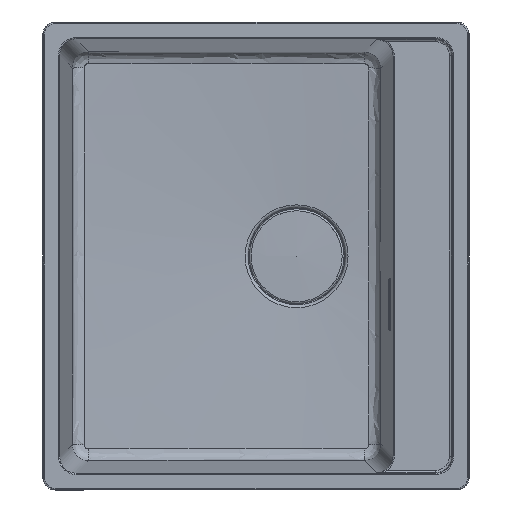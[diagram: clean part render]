
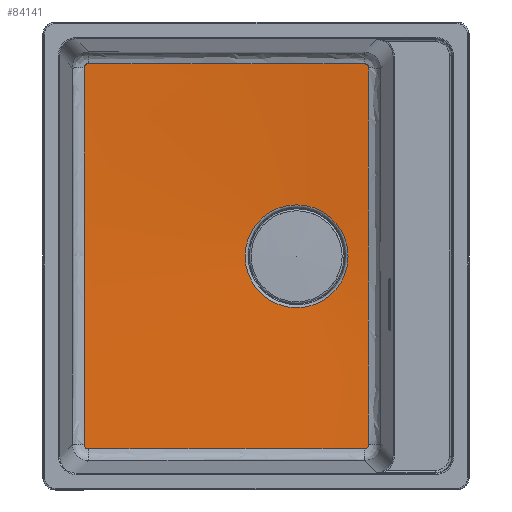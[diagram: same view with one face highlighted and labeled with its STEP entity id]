
A CAD part, top view. The second image highlights one B-rep face of the part: STEP entity #84141.
In plain terms, the highlighted conical face has half-angle 87 degrees and reference radius 431.05 mm.
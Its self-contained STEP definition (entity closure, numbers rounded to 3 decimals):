
#238=CONICAL_SURFACE('',#89723,431.05,1.518);
#2324=B_SPLINE_CURVE_WITH_KNOTS('',3,(#120368,#120369,#120370,#120371,#120372,
#120373,#120374,#120375),.UNSPECIFIED.,.F.,.F.,(4,1,1,1,1,4),(-0.784,
-0.56,-0.336,-0.224,-0.112,
0.),.UNSPECIFIED.);
#2325=B_SPLINE_CURVE_WITH_KNOTS('',3,(#120421,#120422,#120423,#120424,#120425,
#120426,#120427),.UNSPECIFIED.,.F.,.F.,(4,1,1,1,4),(0.,4.711,
11.778,14.133,32.978),.UNSPECIFIED.);
#2326=B_SPLINE_CURVE_WITH_KNOTS('',3,(#120472,#120473,#120474,#120475,#120476,
#120477,#120478),.UNSPECIFIED.,.F.,.F.,(4,1,1,1,4),(-0.784,
-0.56,-0.336,-0.224,0.),
 .UNSPECIFIED.);
#2327=B_SPLINE_CURVE_WITH_KNOTS('',3,(#120548,#120549,#120550,#120551,#120552,
#120553,#120554,#120555),.UNSPECIFIED.,.F.,.F.,(4,1,1,1,1,4),(0.,6.422,
12.845,19.267,22.478,22.478),
 .UNSPECIFIED.);
#2328=B_SPLINE_CURVE_WITH_KNOTS('',3,(#120556,#120557,#120558,#120559,#120560,
#120561,#120562),.UNSPECIFIED.,.F.,.F.,(4,1,1,1,4),(22.478,25.689,
32.112,38.534,44.956),.UNSPECIFIED.);
#2329=B_SPLINE_CURVE_WITH_KNOTS('',3,(#120607,#120608,#120609,#120610,#120611,
#120612,#120613),.UNSPECIFIED.,.F.,.F.,(4,1,1,1,4),(-0.784,
-0.56,-0.336,-0.112,0.),
 .UNSPECIFIED.);
#2331=B_SPLINE_CURVE_WITH_KNOTS('',3,(#120665,#120666,#120667,#120668,#120669,
#120670,#120671),.UNSPECIFIED.,.F.,.F.,(4,1,1,1,4),(0.,14.133,
16.489,23.555,32.978),.UNSPECIFIED.);
#2332=B_SPLINE_CURVE_WITH_KNOTS('',3,(#120722,#120723,#120724,#120725,#120726,
#120727,#120728,#120729),.UNSPECIFIED.,.F.,.F.,(4,1,1,1,1,4),(-0.784,
-0.672,-0.56,-0.448,-0.224,
0.),.UNSPECIFIED.);
#2333=B_SPLINE_CURVE_WITH_KNOTS('',3,(#120772,#120773,#120774,#120775,#120776,
#120777,#120778),.UNSPECIFIED.,.F.,.F.,(4,1,1,1,4),(0.,
19.296,25.728,32.16,45.024),
 .UNSPECIFIED.);
#8037=FACE_OUTER_BOUND('',#12952,.T.);
#12952=EDGE_LOOP('',(#58238,#58239,#58240,#58241,#58242,#58243,#58244,#58245,
#58246,#58247,#58248,#58249,#58250));
#18136=LINE('',#120784,#25767);
#25767=VECTOR('',#96851,431.05);
#33397=CIRCLE('',#89724,61.592);
#33398=CIRCLE('',#89725,61.592);
#36022=VERTEX_POINT('',#120365);
#36023=VERTEX_POINT('',#120367);
#36024=VERTEX_POINT('',#120419);
#36025=VERTEX_POINT('',#120470);
#36026=VERTEX_POINT('',#120545);
#36027=VERTEX_POINT('',#120547);
#36028=VERTEX_POINT('',#120605);
#36029=VERTEX_POINT('',#120663);
#36030=VERTEX_POINT('',#120720);
#36031=VERTEX_POINT('',#120780);
#36032=VERTEX_POINT('',#120781);
#44661=EDGE_CURVE('',#36022,#36023,#2324,.T.);
#44664=EDGE_CURVE('',#36024,#36022,#2325,.T.);
#44666=EDGE_CURVE('',#36025,#36024,#2326,.T.);
#44668=EDGE_CURVE('',#36026,#36027,#2327,.T.);
#44669=EDGE_CURVE('',#36027,#36025,#2328,.T.);
#44671=EDGE_CURVE('',#36028,#36026,#2329,.T.);
#44674=EDGE_CURVE('',#36029,#36028,#2331,.T.);
#44676=EDGE_CURVE('',#36030,#36029,#2332,.T.);
#44677=EDGE_CURVE('',#36023,#36030,#2333,.T.);
#44678=EDGE_CURVE('',#36031,#36032,#33397,.T.);
#44679=EDGE_CURVE('',#36032,#36031,#33398,.T.);
#44680=EDGE_CURVE('',#36032,#36027,#18136,.T.);
#58238=ORIENTED_EDGE('',*,*,#44678,.F.);
#58239=ORIENTED_EDGE('',*,*,#44679,.F.);
#58240=ORIENTED_EDGE('',*,*,#44680,.T.);
#58241=ORIENTED_EDGE('',*,*,#44668,.F.);
#58242=ORIENTED_EDGE('',*,*,#44671,.F.);
#58243=ORIENTED_EDGE('',*,*,#44674,.F.);
#58244=ORIENTED_EDGE('',*,*,#44676,.F.);
#58245=ORIENTED_EDGE('',*,*,#44677,.F.);
#58246=ORIENTED_EDGE('',*,*,#44661,.F.);
#58247=ORIENTED_EDGE('',*,*,#44664,.F.);
#58248=ORIENTED_EDGE('',*,*,#44666,.F.);
#58249=ORIENTED_EDGE('',*,*,#44669,.F.);
#58250=ORIENTED_EDGE('',*,*,#44680,.F.);
#84141=ADVANCED_FACE('',(#8037),#238,.F.);
#89723=AXIS2_PLACEMENT_3D('',#120779,#96845,#96846);
#89724=AXIS2_PLACEMENT_3D('',#120782,#96847,#96848);
#89725=AXIS2_PLACEMENT_3D('',#120783,#96849,#96850);
#96845=DIRECTION('center_axis',(0.,0.,1.));
#96846=DIRECTION('ref_axis',(-1.,0.,0.));
#96847=DIRECTION('center_axis',(0.,0.,1.));
#96848=DIRECTION('ref_axis',(1.,0.,0.));
#96849=DIRECTION('center_axis',(0.,0.,1.));
#96850=DIRECTION('ref_axis',(1.,0.,0.));
#96851=DIRECTION('',(0.999,0.,0.052));
#120365=CARTESIAN_POINT('',(-200.639,-230.577,-185.271));
#120367=CARTESIAN_POINT('',(-205.633,-225.586,-185.253));
#120368=CARTESIAN_POINT('Ctrl Pts',(-200.639,-230.577,
-185.271));
#120369=CARTESIAN_POINT('Ctrl Pts',(-201.386,-230.579,
-185.243));
#120370=CARTESIAN_POINT('Ctrl Pts',(-202.882,-230.245,
-185.197));
#120371=CARTESIAN_POINT('Ctrl Pts',(-204.384,-229.051,
-185.181));
#120372=CARTESIAN_POINT('Ctrl Pts',(-205.182,-227.773,
-185.194));
#120373=CARTESIAN_POINT('Ctrl Pts',(-205.552,-226.707,
-185.217));
#120374=CARTESIAN_POINT('Ctrl Pts',(-205.634,-225.959,
-185.24));
#120375=CARTESIAN_POINT('Ctrl Pts',(-205.633,-225.586,-185.253));
#120419=CARTESIAN_POINT('',(129.888,-230.348,-190.264));
#120421=CARTESIAN_POINT('Ctrl Pts',(129.888,-230.348,
-190.264));
#120422=CARTESIAN_POINT('Ctrl Pts',(114.141,-230.339,
-190.539));
#120423=CARTESIAN_POINT('Ctrl Pts',(74.76,-230.326,
-191.049));
#120424=CARTESIAN_POINT('Ctrl Pts',(27.484,-230.328,-191.037));
#120425=CARTESIAN_POINT('Ctrl Pts',(-67.043,-230.349,
-189.994));
#120426=CARTESIAN_POINT('Ctrl Pts',(-137.805,-230.438,
-187.694));
#120427=CARTESIAN_POINT('Ctrl Pts',(-200.639,-230.577,
-185.271));
#120470=CARTESIAN_POINT('',(134.874,-225.346,-190.42));
#120472=CARTESIAN_POINT('Ctrl Pts',(134.874,-225.346,
-190.42));
#120473=CARTESIAN_POINT('Ctrl Pts',(134.877,-226.092,
-190.383));
#120474=CARTESIAN_POINT('Ctrl Pts',(134.545,-227.586,-190.317));
#120475=CARTESIAN_POINT('Ctrl Pts',(133.354,-229.09,
-190.265));
#120476=CARTESIAN_POINT('Ctrl Pts',(131.759,-230.093,
-190.244));
#120477=CARTESIAN_POINT('Ctrl Pts',(130.636,-230.348,-190.251));
#120478=CARTESIAN_POINT('Ctrl Pts',(129.888,-230.348,
-190.264));
#120545=CARTESIAN_POINT('',(134.874,225.346,-190.42));
#120547=CARTESIAN_POINT('',(134.668,0.,-198.557));
#120548=CARTESIAN_POINT('Ctrl Pts',(134.874,225.346,-190.42));
#120549=CARTESIAN_POINT('Ctrl Pts',(134.806,203.955,-191.468));
#120550=CARTESIAN_POINT('Ctrl Pts',(134.684,161.164,-193.53));
#120551=CARTESIAN_POINT('Ctrl Pts',(134.572,96.925,-196.383));
#120552=CARTESIAN_POINT('Ctrl Pts',(134.628,43.21,-198.217));
#120553=CARTESIAN_POINT('Ctrl Pts',(134.668,10.802,-198.556));
#120554=CARTESIAN_POINT('Ctrl Pts',(134.668,0.,
-198.557));
#120555=CARTESIAN_POINT('Ctrl Pts',(134.668,0.,
-198.557));
#120556=CARTESIAN_POINT('Ctrl Pts',(134.668,0.,
-198.557));
#120557=CARTESIAN_POINT('Ctrl Pts',(134.668,-10.802,
-198.557));
#120558=CARTESIAN_POINT('Ctrl Pts',(134.629,-43.209,
-198.219));
#120559=CARTESIAN_POINT('Ctrl Pts',(134.572,-96.925,-196.382));
#120560=CARTESIAN_POINT('Ctrl Pts',(134.684,-161.164,
-193.531));
#120561=CARTESIAN_POINT('Ctrl Pts',(134.806,-203.955,
-191.468));
#120562=CARTESIAN_POINT('Ctrl Pts',(134.874,-225.346,
-190.42));
#120605=CARTESIAN_POINT('',(129.888,230.348,-190.264));
#120607=CARTESIAN_POINT('Ctrl Pts',(129.888,230.348,-190.264));
#120608=CARTESIAN_POINT('Ctrl Pts',(130.636,230.348,-190.251));
#120609=CARTESIAN_POINT('Ctrl Pts',(132.134,230.009,-190.241));
#120610=CARTESIAN_POINT('Ctrl Pts',(133.935,228.57,-190.28));
#120611=CARTESIAN_POINT('Ctrl Pts',(134.756,226.839,-190.349));
#120612=CARTESIAN_POINT('Ctrl Pts',(134.876,225.719,-190.402));
#120613=CARTESIAN_POINT('Ctrl Pts',(134.874,225.346,-190.42));
#120663=CARTESIAN_POINT('',(-200.639,230.577,-185.271));
#120665=CARTESIAN_POINT('Ctrl Pts',(-200.639,230.577,
-185.271));
#120666=CARTESIAN_POINT('Ctrl Pts',(-153.514,230.472,
-187.088));
#120667=CARTESIAN_POINT('Ctrl Pts',(-98.494,230.388,-188.953));
#120668=CARTESIAN_POINT('Ctrl Pts',(-19.781,230.338,
-190.551));
#120669=CARTESIAN_POINT('Ctrl Pts',(43.239,230.323,-191.26));
#120670=CARTESIAN_POINT('Ctrl Pts',(98.395,230.331,-190.814));
#120671=CARTESIAN_POINT('Ctrl Pts',(129.888,230.348,-190.264));
#120720=CARTESIAN_POINT('',(-205.633,225.586,-185.253));
#120722=CARTESIAN_POINT('Ctrl Pts',(-205.633,225.586,-185.253));
#120723=CARTESIAN_POINT('Ctrl Pts',(-205.634,225.959,
-185.24));
#120724=CARTESIAN_POINT('Ctrl Pts',(-205.552,226.707,
-185.217));
#120725=CARTESIAN_POINT('Ctrl Pts',(-205.182,227.773,
-185.194));
#120726=CARTESIAN_POINT('Ctrl Pts',(-204.384,229.05,
-185.181));
#120727=CARTESIAN_POINT('Ctrl Pts',(-202.882,230.244,
-185.197));
#120728=CARTESIAN_POINT('Ctrl Pts',(-201.386,230.579,
-185.243));
#120729=CARTESIAN_POINT('Ctrl Pts',(-200.639,230.577,
-185.271));
#120772=CARTESIAN_POINT('Ctrl Pts',(-205.633,-225.586,-185.253));
#120773=CARTESIAN_POINT('Ctrl Pts',(-205.51,-161.222,
-187.497));
#120774=CARTESIAN_POINT('Ctrl Pts',(-205.433,-75.291,
-189.793));
#120775=CARTESIAN_POINT('Ctrl Pts',(-205.437,32.266,
-189.787));
#120776=CARTESIAN_POINT('Ctrl Pts',(-205.469,118.263,
-188.65));
#120777=CARTESIAN_POINT('Ctrl Pts',(-205.551,182.676,
-186.749));
#120778=CARTESIAN_POINT('Ctrl Pts',(-205.633,225.586,-185.253));
#120779=CARTESIAN_POINT('Origin',(48.6,0.,-180.475));
#120780=CARTESIAN_POINT('',(-12.992,0.,-199.838));
#120781=CARTESIAN_POINT('',(110.192,0.,-199.838));
#120782=CARTESIAN_POINT('Origin',(48.6,0.,
-199.838));
#120783=CARTESIAN_POINT('Origin',(48.6,0.,
-199.838));
#120784=CARTESIAN_POINT('',(479.65,0.,-180.475));
